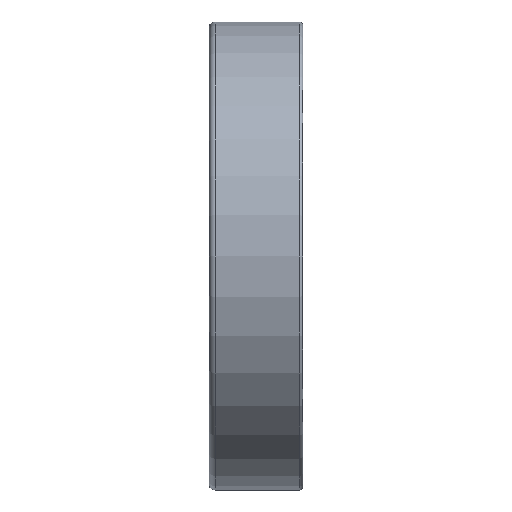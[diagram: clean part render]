
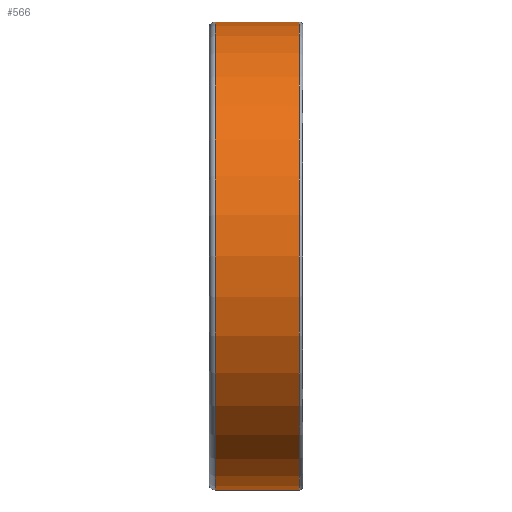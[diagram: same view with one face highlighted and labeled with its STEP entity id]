
A CAD part, front view. The second image highlights one B-rep face of the part: STEP entity #566.
In plain terms, the highlighted cylindrical face has radius 40 mm (diameter 80 mm), a full revolution.
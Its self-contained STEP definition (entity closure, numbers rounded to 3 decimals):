
#170=CYLINDRICAL_SURFACE('',#890,40.);
#274=EDGE_LOOP('',(#390));
#275=EDGE_LOOP('',(#391));
#390=ORIENTED_EDGE('',*,*,#456,.F.);
#391=ORIENTED_EDGE('',*,*,#454,.T.);
#454=EDGE_CURVE('',#815,#815,#474,.T.);
#456=EDGE_CURVE('',#817,#817,#476,.T.);
#474=CIRCLE('',#886,40.);
#476=CIRCLE('',#889,40.);
#566=ADVANCED_FACE('',(#713,#714),#170,.T.);
#713=FACE_BOUND('',#274,.T.);
#714=FACE_BOUND('',#275,.T.);
#815=VERTEX_POINT('',#1866);
#817=VERTEX_POINT('',#1871);
#886=AXIS2_PLACEMENT_3D('',#1865,#1017,#1018);
#889=AXIS2_PLACEMENT_3D('',#1870,#1023,#1024);
#890=AXIS2_PLACEMENT_3D('',#1872,#1025,#1026);
#1017=DIRECTION('',(1.,0.,0.));
#1018=DIRECTION('',(0.,0.,-1.));
#1023=DIRECTION('',(1.,0.,0.));
#1024=DIRECTION('',(0.,0.,-1.));
#1025=DIRECTION('',(1.,0.,0.));
#1026=DIRECTION('',(0.,0.,-1.));
#1865=CARTESIAN_POINT('',(-7.,0.,0.));
#1866=CARTESIAN_POINT('',(-7.,0.,-40.));
#1870=CARTESIAN_POINT('',(7.4,0.,0.));
#1871=CARTESIAN_POINT('',(7.4,0.,-40.));
#1872=CARTESIAN_POINT('',(-7.,0.,0.));
